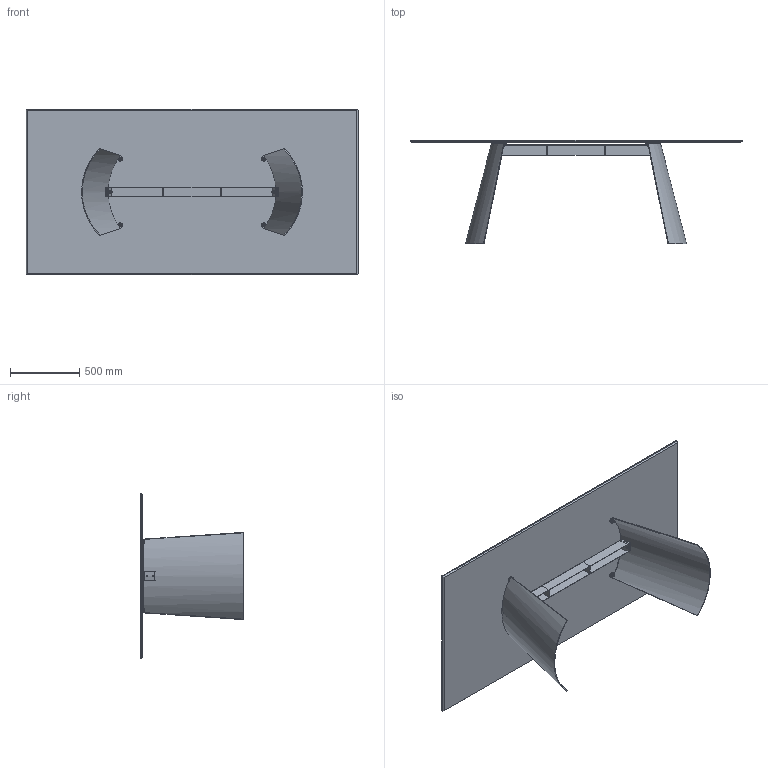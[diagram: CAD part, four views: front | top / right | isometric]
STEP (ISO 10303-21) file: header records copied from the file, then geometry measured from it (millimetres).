
FILE_DESCRIPTION (( 'STEP AP203' ), '1' );
FILE_NAME ('DN22C.STEP', '2024-08-07T15:09:10', ( '' ), ( '' ), 'SwSTEP 2.0', 'SolidWorks 2022', '' );
FILE_SCHEMA (( 'CONFIG_CONTROL_DESIGN' ));
Length unit declared in the file: millimetre
Products named in the file (14): DNB300000_03-02-PIASTRINA; feltro Ø12x3; 434070-00-PIEDINO TPV GOMMA NERO D. 30x8max18_filo estetico; DN22C; DNB300000_02-02-RISCONTRO STANGONE CENTRALE; rondella M8_8X16; rondella M8X24; DNB400000-02-ASSIEME STRUTTURA COMPLETA_L.1250; SDNB300000-02-GAMBA X TRASP; GRANO M8X35_barra; nut_M8_M8; DNBX00000-01-DORIAN TRAVERSO LXXXX PER TAVOLO LX00_L.1250; DNB300000_01-02-GAMBA DORIAN; K2XCMXX-00-Piani Rettangolari in ceramica_2390 x 1190
Assembly tree (37 placements, depth 4):
  DN22C
    K2XCMXX-00-Piani Rettangolari in ceramica_2390 x 1190
    DNB400000-02-ASSIEME STRUTTURA COMPLETA_L.1250
      SDNB300000-02-GAMBA X TRASP  x2
        DNB300000_01-02-GAMBA DORIAN
        DNB300000_02-02-RISCONTRO STANGONE CENTRALE
        DNB300000_03-02-PIASTRINA
      DNBX00000-01-DORIAN TRAVERSO LXXXX PER TAVOLO LX00_L.1250
    434070-00-PIEDINO TPV GOMMA NERO D. 30x8max18_filo estetico  x4
    nut_M8_M8  x8
    rondella M8X24  x4
    GRANO M8X35_barra  x4
    rondella M8_8X16  x4
    feltro Ø12x3  x4
Bounding box: 2390 x 746 x 1190 mm (x, y, z)
Volume: 51030804.9 mm3; surface area: 14001255.1 mm2
Topology: 47 solids, 47 shells, 596 faces, 1378 edges, 876 vertices
Faces by surface type: plane 262, cylinder 156, torus 80, cone 80, bspline 18
Entity records: 10535 total; most frequent: CARTESIAN_POINT 2093, DIRECTION 1335, ORIENTED_EDGE 1288, EDGE_CURVE 644, AXIS2_PLACEMENT_3D 466, VERTEX_POINT 420, VECTOR 403, LINE 403
